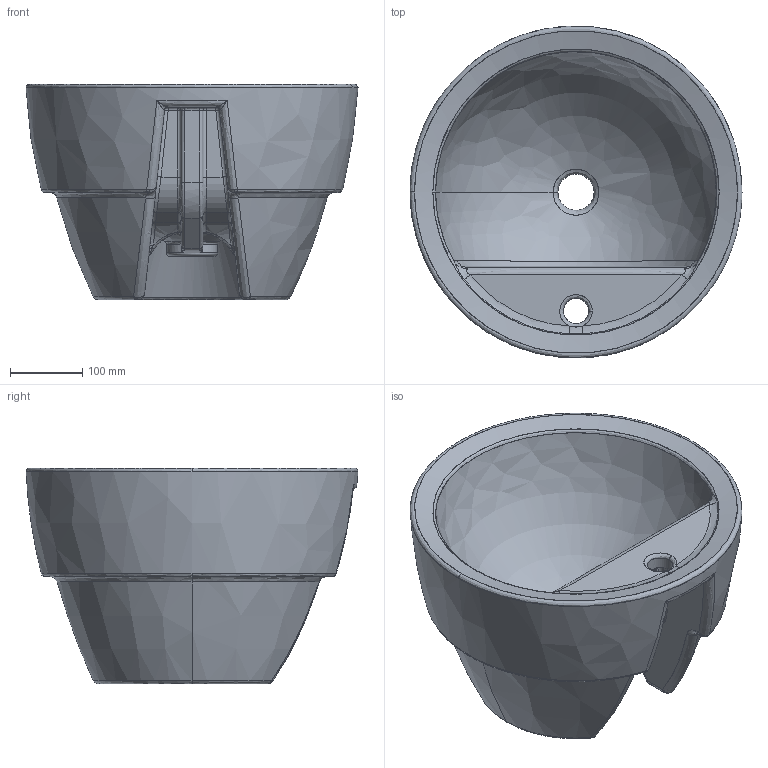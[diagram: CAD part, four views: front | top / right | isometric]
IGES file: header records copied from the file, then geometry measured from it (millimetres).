
Start section: C
Global section: file name: Matty tondo-A-R.igs; native system:  By UGS Corp.; preprocessor: XPlus GENERIC/IGES 3.0; author: Author; organization: Title; date: 20120321.174901; units: millimetre
Bounding box: 459.44 x 458.91 x 298.48 mm (x, y, z)
Surface area: 784427.2 mm2 (no closed solid volume)
Topology: 0 solids, 0 shells, 146 faces, 742 edges, 728 vertices
Faces by surface type: bspline 146
